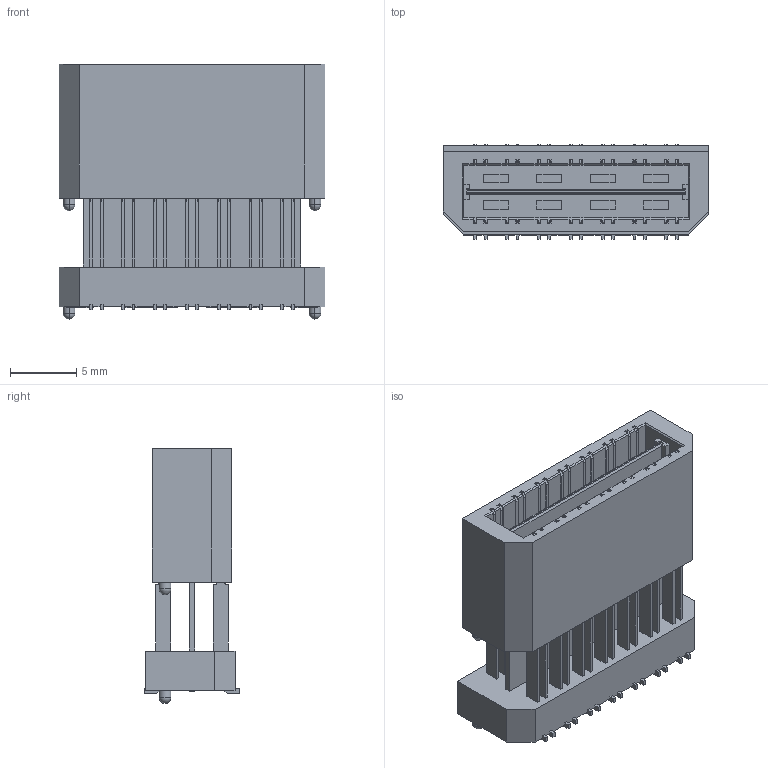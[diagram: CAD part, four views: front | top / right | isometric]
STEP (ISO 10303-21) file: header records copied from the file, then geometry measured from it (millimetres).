
FILE_DESCRIPTION((''),'2;1');
FILE_NAME('C-1-1658017-1','2013-02-27T',('workeradm'),('Tyco Electronics Ltd.'),'PRO/ENGINEER BY PARAMETRIC TECHNOLOGY CORPORATION, 2010430','PRO/ENGINEER BY PARAMETRIC TECHNOLOGY CORPORATION, 2010430','');
FILE_SCHEMA(('AUTOMOTIVE_DESIGN { 1 0 10303 214 1 1 1 1 }'));
Length unit declared in the file: millimetre
Products named in the file (1): C-1-1658017-1
Bounding box: 20 x 7.14 x 19.19 mm (x, y, z)
Volume: 1474 mm3; surface area: 2164.7 mm2
Topology: 1 solids, 1 shells, 1316 faces, 4046 edges, 2688 vertices
Faces by surface type: plane 1104, cylinder 204, sphere 8
Entity records: 45213 total; most frequent: ORIENTED_EDGE 8076, CARTESIAN_POINT 8044, DIRECTION 7086, EDGE_CURVE 4038, VECTOR 3622, LINE 3622, VERTEX_POINT 2688, AXIS2_PLACEMENT_3D 1732
